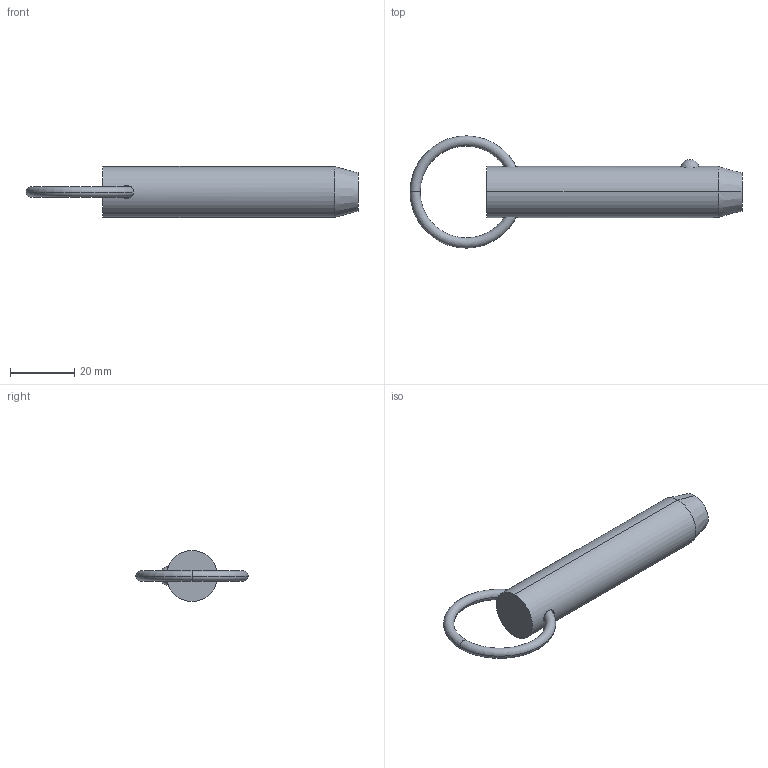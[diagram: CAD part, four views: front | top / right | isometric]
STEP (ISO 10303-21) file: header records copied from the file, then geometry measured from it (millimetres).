
FILE_DESCRIPTION (( 'STEP AP203' ), '1' );
FILE_NAME ('33010.W6220.step', '2024-11-01T10:41:33', ( '' ), ( '' ), 'SwSTEP 2.0', 'SolidWorks 2019', '' );
FILE_SCHEMA (( 'CONFIG_CONTROL_DESIGN' ));
Length unit declared in the file: millimetre
Products named in the file (3): Part1_33010.W6220; 33010.W6220; Part2_33010.W6220
Assembly tree (2 placements, depth 2):
  33010.W6220
    Part1_33010.W6220
    Part2_33010.W6220
Bounding box: 103.31 x 34.93 x 15.88 mm (x, y, z)
Volume: 16007.4 mm3; surface area: 5423.5 mm2
Topology: 2 solids, 2 shells, 16 faces, 31 edges, 18 vertices
Faces by surface type: torus 8, sphere 2, cone 2, cylinder 2, plane 2
Entity records: 889 total; most frequent: CARTESIAN_POINT 246, DIRECTION 88, ORIENTED_EDGE 62, AXIS2_PLACEMENT_3D 42, EDGE_CURVE 31, PERSON_AND_ORGANIZATION 26, CIRCLE 21, DATE_AND_TIME 19
